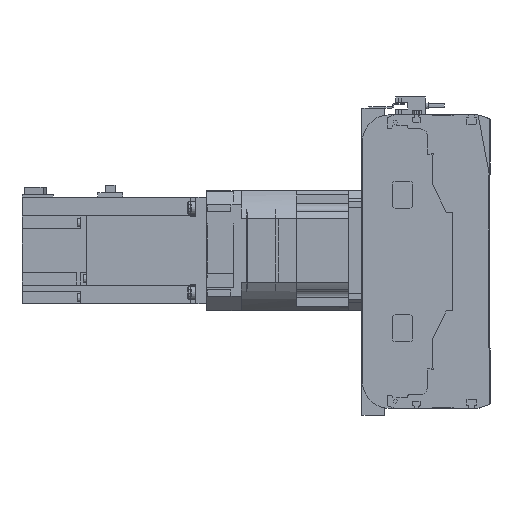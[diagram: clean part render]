
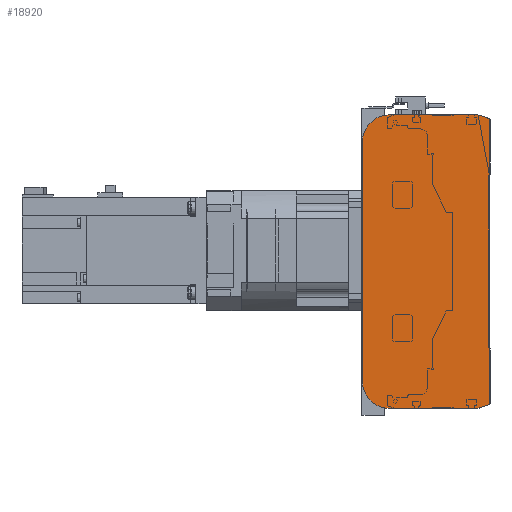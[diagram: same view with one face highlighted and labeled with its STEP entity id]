
A CAD part, left-side view. The second image highlights one B-rep face of the part: STEP entity #18920.
In plain terms, the highlighted planar face has unit normal (-1, 0, 0).
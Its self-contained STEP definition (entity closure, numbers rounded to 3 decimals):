
#1082=CIRCLE('',#20617,20.);
#1083=CIRCLE('',#20620,20.);
#4694=ORIENTED_EDGE('',*,*,#8200,.F.);
#4695=ORIENTED_EDGE('',*,*,#8242,.F.);
#4696=ORIENTED_EDGE('',*,*,#8240,.F.);
#4697=ORIENTED_EDGE('',*,*,#8238,.F.);
#4698=ORIENTED_EDGE('',*,*,#8227,.F.);
#4699=ORIENTED_EDGE('',*,*,#8218,.F.);
#4700=ORIENTED_EDGE('',*,*,#8214,.F.);
#4701=ORIENTED_EDGE('',*,*,#8211,.F.);
#8200=EDGE_CURVE('',#10297,#10298,#11995,.T.);
#8211=EDGE_CURVE('',#10298,#10305,#12006,.T.);
#8214=EDGE_CURVE('',#10305,#10307,#12009,.T.);
#8218=EDGE_CURVE('',#10307,#10308,#12013,.T.);
#8227=EDGE_CURVE('',#10308,#10314,#12022,.T.);
#8238=EDGE_CURVE('',#10314,#10321,#1082,.T.);
#8240=EDGE_CURVE('',#10321,#10322,#12034,.T.);
#8242=EDGE_CURVE('',#10322,#10297,#1083,.T.);
#10297=VERTEX_POINT('',#31307);
#10298=VERTEX_POINT('',#31309);
#10305=VERTEX_POINT('',#31328);
#10307=VERTEX_POINT('',#31334);
#10308=VERTEX_POINT('',#31340);
#10314=VERTEX_POINT('',#31356);
#10321=VERTEX_POINT('',#31375);
#10322=VERTEX_POINT('',#31379);
#11995=LINE('',#31308,#13580);
#12006=LINE('',#31327,#13591);
#12009=LINE('',#31333,#13594);
#12013=LINE('',#31339,#13598);
#12022=LINE('',#31355,#13607);
#12034=LINE('',#31378,#13619);
#13580=VECTOR('',#24960,1000.);
#13591=VECTOR('',#24973,1000.);
#13594=VECTOR('',#24978,1000.);
#13598=VECTOR('',#24984,1000.);
#13607=VECTOR('',#24995,1000.);
#13619=VECTOR('',#25013,1000.);
#15004=EDGE_LOOP('',(#4694,#4695,#4696,#4697,#4698,#4699,#4700,#4701));
#16790=FACE_BOUND('',#15004,.T.);
#18015=PLANE('',#20621);
#18920=ADVANCED_FACE('',(#16790),#18015,.F.);
#20617=AXIS2_PLACEMENT_3D('',#31374,#25008,#25009);
#20620=AXIS2_PLACEMENT_3D('',#31382,#25017,#25018);
#20621=AXIS2_PLACEMENT_3D('',#31383,#25019,#25020);
#24960=DIRECTION('',(0.,-1.,0.));
#24973=DIRECTION('',(0.,-0.945,-0.328));
#24978=DIRECTION('',(0.,0.,-1.));
#24984=DIRECTION('',(0.,0.945,-0.328));
#24995=DIRECTION('',(0.,1.,0.));
#25008=DIRECTION('',(1.,0.,0.));
#25009=DIRECTION('',(0.,0.,-1.));
#25013=DIRECTION('',(0.,0.,1.));
#25017=DIRECTION('',(1.,0.,0.));
#25018=DIRECTION('',(0.,0.,-1.));
#25019=DIRECTION('',(1.,0.,0.));
#25020=DIRECTION('',(0.,0.,-1.));
#31307=CARTESIAN_POINT('',(0.,75.5,110.));
#31308=CARTESIAN_POINT('',(0.,75.5,110.));
#31309=CARTESIAN_POINT('',(0.,9.,110.));
#31327=CARTESIAN_POINT('',(0.,9.,110.));
#31328=CARTESIAN_POINT('',(0.,0.5,107.05));
#31333=CARTESIAN_POINT('',(0.,0.5,107.05));
#31334=CARTESIAN_POINT('',(0.,0.5,-107.05));
#31339=CARTESIAN_POINT('',(0.,0.5,-107.05));
#31340=CARTESIAN_POINT('',(0.,9.,-110.));
#31355=CARTESIAN_POINT('',(0.,9.,-110.));
#31356=CARTESIAN_POINT('',(0.,75.5,-110.));
#31374=CARTESIAN_POINT('',(0.,75.5,-90.));
#31375=CARTESIAN_POINT('',(0.,95.5,-90.));
#31378=CARTESIAN_POINT('',(0.,95.5,-90.));
#31379=CARTESIAN_POINT('',(0.,95.5,90.));
#31382=CARTESIAN_POINT('',(0.,75.5,90.));
#31383=CARTESIAN_POINT('',(0.,75.5,-90.));
